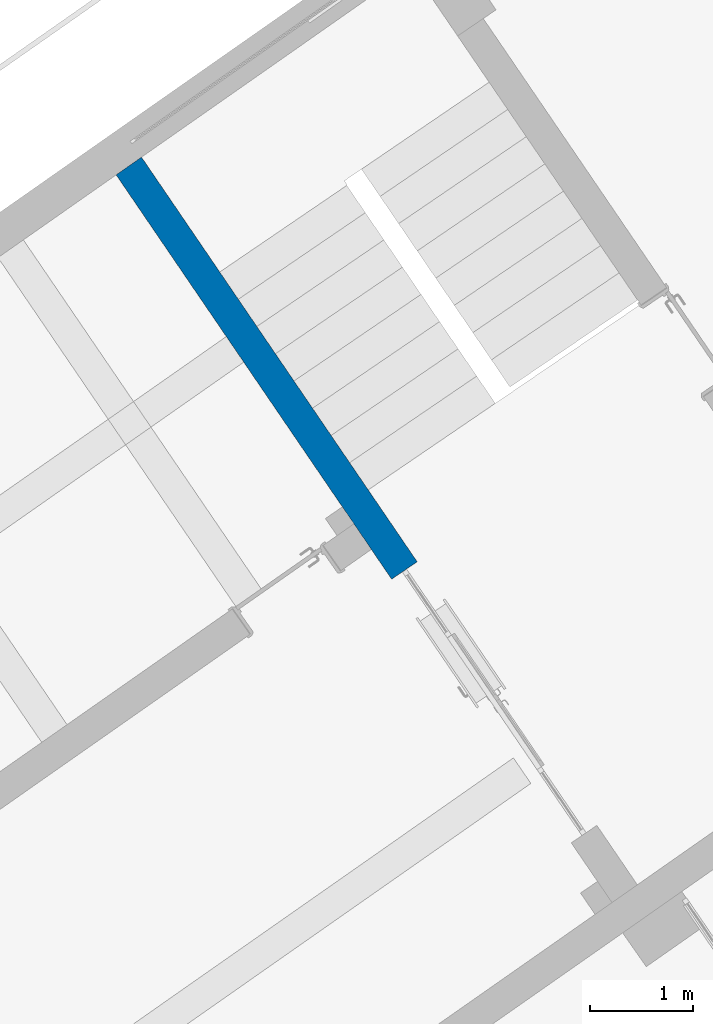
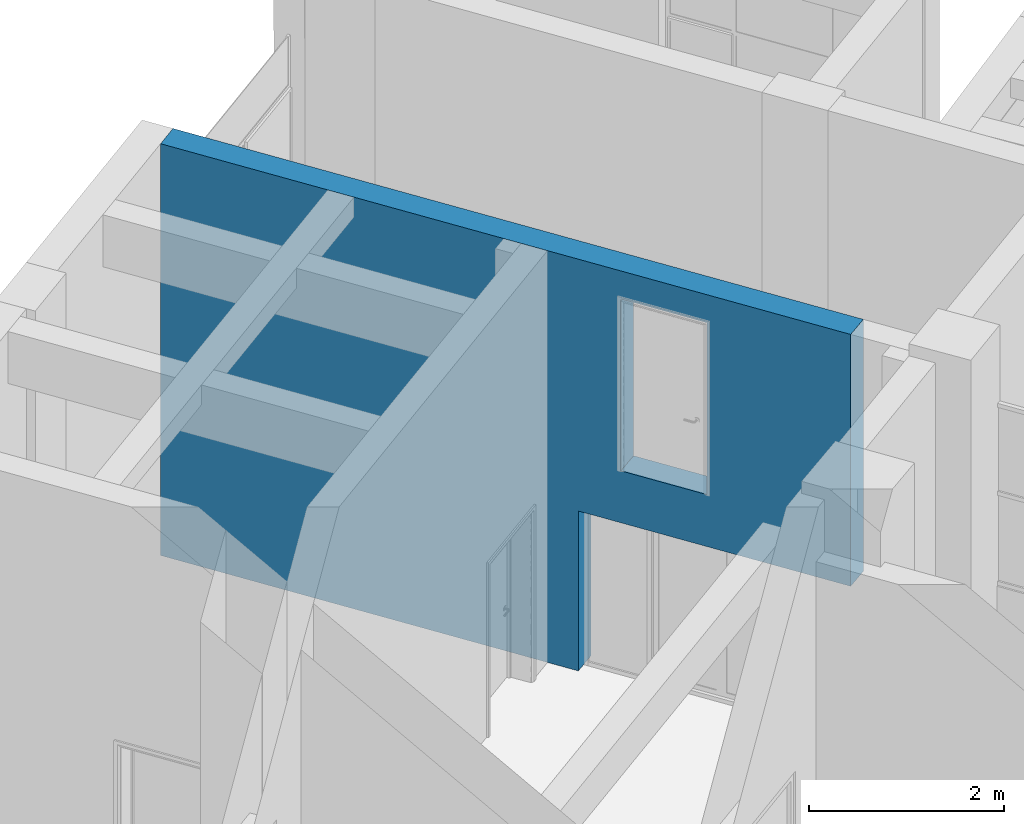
# One storey, part 111 of 157: 1 wall, 1 opening.
"""IFC2X3 building model written with IfcOpenShell, lengths in millimetres."""

import ifcopenshell
import ifcopenshell.guid

model = None  # the IFC model being written
_history = None  # IfcOwnerHistory: only IFC2X3 demands one
_inside = {}  # id of a spatial element -> (the spatial element, [elements in it])
_under = {}  # id of a project, library or spatial element -> (it, [spatial elements below it])
_declared = {}  # id of a project -> (the project, [libraries it declares])
_typed = {}  # id of a type object -> (the type object, [elements of that type])
_made_of = {}  # id of a material, layer set ... -> (it, [elements and type objects made of it])


def new_model(schema):
    """Start an empty IFC model of exactly this schema.

    Asked for "IFC4X3", IfcOpenShell would pick the latest addendum, in which some entities
    have other attributes; the version numbers below select the first issue.
    IFC2X3 requires an IfcOwnerHistory on every rooted entity: one is made here for all.
    """
    global model, _history
    if schema == "IFC4X3":
        model = ifcopenshell.file(schema_version=(4, 3, 0, 0))
    else:
        model = ifcopenshell.file(schema=schema)
    _inside.clear()
    _under.clear()
    _declared.clear()
    _typed.clear()
    _made_of.clear()
    _history = None
    if model.schema == "IFC2X3":
        org = make("IfcOrganization", Name="unknown")
        user = make(
            "IfcPersonAndOrganization",
            ThePerson=make("IfcPerson", FamilyName="unknown"),
            TheOrganization=org,
        )
        app = make(
            "IfcApplication",
            ApplicationDeveloper=org,
            Version="unknown",
            ApplicationFullName="unknown",
            ApplicationIdentifier="unknown",
        )
        _history = make(
            "IfcOwnerHistory",
            OwningUser=user,
            OwningApplication=app,
            ChangeAction="ADDED",
            CreationDate=0,
        )
    return model


def make(cls, **values):
    """One entity of the class cls with the attributes given. An attribute that is None is left unset."""
    return model.create_entity(
        cls, **{name: value for name, value in values.items() if value is not None}
    )


def entity(cls, *values):
    """Any entity or typed value of the class cls, its attributes in the order of the schema. None: left unset."""
    e = model.create_entity(cls)
    for i, value in enumerate(values):
        if value is not None:
            e[i] = value
    return e


def rooted(cls, **values):
    """An entity with a GlobalId (a new one), such as an element, a storey or a relation."""
    return make(cls, GlobalId=ifcopenshell.guid.new(), OwnerHistory=_history, **values)


def si_unit(unit_type, name, prefix=None):
    """IfcSIUnit, for example si_unit("LENGTHUNIT", "METRE", prefix="MILLI")."""
    return make("IfcSIUnit", UnitType=unit_type, Prefix=prefix, Name=name)


def converted_unit(unit_type, name, factor, base, dimensions=None, offset=None):
    """IfcConversionBasedUnit, such as the inch: factor (a typed value) times the base unit."""
    return make(
        "IfcConversionBasedUnit"
        if offset is None
        else "IfcConversionBasedUnitWithOffset",
        ConversionOffset=offset,
        Dimensions=None
        if dimensions is None
        else entity("IfcDimensionalExponents", *dimensions),
        UnitType=unit_type,
        Name=name,
        ConversionFactor=make(
            "IfcMeasureWithUnit", ValueComponent=factor, UnitComponent=base
        ),
    )


def derived_unit(unit_type, elements):
    """IfcDerivedUnit: a product of units, each with its exponent."""
    return make(
        "IfcDerivedUnit",
        Elements=[
            make("IfcDerivedUnitElement", Unit=unit, Exponent=power)
            for unit, power in elements
        ],
        UnitType=unit_type,
    )


def assignment(units):
    """IfcUnitAssignment: the units of a project."""
    return None if units is None else make("IfcUnitAssignment", Units=units)


def point(xyz):
    """IfcCartesianPoint."""
    return None if xyz is None else make("IfcCartesianPoint", Coordinates=xyz)


def direction(xyz):
    """IfcDirection."""
    return None if xyz is None else make("IfcDirection", DirectionRatios=xyz)


def frame(location, z_axis=None, x_axis=None):
    """IfcAxis2Placement3D, a coordinate frame: its origin and axes. An axis left out is left unset."""
    return make(
        "IfcAxis2Placement3D",
        Location=point(location),
        Axis=direction(z_axis),
        RefDirection=direction(x_axis),
    )


def frame_2d(location, x_axis=None):
    """IfcAxis2Placement2D, a coordinate frame in the plane: its origin and x axis."""
    return make(
        "IfcAxis2Placement2D", Location=point(location), RefDirection=direction(x_axis)
    )


def origin():
    """The frame at (0, 0, 0) with its axes left unset."""
    return frame((0.0, 0.0, 0.0))


def place(relative_to, where):
    """IfcLocalPlacement: puts the frame where relative to a parent placement (None: the world)."""
    return make(
        "IfcLocalPlacement", PlacementRelTo=relative_to, RelativePlacement=where
    )


def context(
    kind, dimensions, precision=None, world=None, true_north=None, identifier=None
):
    """IfcGeometricRepresentationContext, for example the 3D "Model" context."""
    return make(
        "IfcGeometricRepresentationContext",
        ContextIdentifier=identifier,
        ContextType=kind,
        CoordinateSpaceDimension=dimensions,
        Precision=precision,
        WorldCoordinateSystem=world,
        TrueNorth=true_north,
    )


def subcontext(parent, identifier, kind, view, scale=None):
    """IfcGeometricRepresentationSubContext, for example "Body" below "Model"."""
    return make(
        "IfcGeometricRepresentationSubContext",
        ContextIdentifier=identifier,
        ContextType=kind,
        ParentContext=parent,
        TargetScale=scale,
        TargetView=view,
    )


def project(units=None, contexts=None):
    """IfcProject with its units and contexts."""
    return rooted(
        "IfcProject",
        Name="project",
        RepresentationContexts=contexts,
        UnitsInContext=assignment(units),
    )


def spatial(cls, under=None, at=None, **own):
    """A site, building, storey or space (cls), placed at a placement, below another one or the project."""
    s = rooted(cls, ObjectPlacement=at, **own)
    if under is not None:
        _under.setdefault(under.id(), (under, []))[1].append(s)
    return s


def profile(cls, at=None, kind="AREA", **sizes):
    """A parametric profile (cls). Its sizes go by their IFC names, for example OverallWidth=200.0."""
    return make(cls, ProfileType=kind, Position=at, **sizes)


def rectangle(**sizes):
    """IfcRectangleProfileDef."""
    return profile("IfcRectangleProfileDef", **sizes)


def extrude(swept, where, along, depth):
    """IfcExtrudedAreaSolid: the profile swept, set in the frame where, extruded along a direction by depth."""
    return make(
        "IfcExtrudedAreaSolid",
        SweptArea=swept,
        Position=where,
        ExtrudedDirection=direction(along),
        Depth=depth,
    )


def faces_of(points, faces, orient=None, outer=None):
    """IfcFace entities. A face is a list of loops; a loop is a list of indices into points, from 0.

    orient and outer hold one flag for each loop. By default every Orientation is true, the
    first loop of a face is its IfcFaceOuterBound and the others are IfcFaceBound.
    """
    made = []
    for i, loops in enumerate(faces):
        bounds = []
        for j, loop in enumerate(loops):
            is_outer = j == 0 if outer is None else outer[i][j]
            bounds.append(
                make(
                    "IfcFaceOuterBound" if is_outer else "IfcFaceBound",
                    Bound=make("IfcPolyLoop", Polygon=[points[k] for k in loop]),
                    Orientation=True if orient is None else orient[i][j],
                )
            )
        made.append(make("IfcFace", Bounds=bounds))
    return made


def faceted_brep(points, faces, orient=None, outer=None, voids=None):
    """IfcFacetedBrep: a solid bounded by flat faces; with voids (closed shells), ...WithVoids."""
    shared = [point(p) for p in points]
    hull = make("IfcClosedShell", CfsFaces=faces_of(shared, faces, orient, outer))
    if voids is None:
        return make("IfcFacetedBrep", Outer=hull)
    return make(
        "IfcFacetedBrepWithVoids",
        Outer=hull,
        Voids=[
            make(cls, CfsFaces=faces_of(shared, fs, o, b)) for cls, fs, o, b in voids
        ],
    )


def shape(context_of_items, identifier, shape_type, items):
    """IfcShapeRepresentation: the items that make up one representation, for example the "Body"."""
    return make(
        "IfcShapeRepresentation",
        ContextOfItems=context_of_items,
        RepresentationIdentifier=identifier,
        RepresentationType=shape_type,
        Items=items,
    )


def material(Name=None, Category=None):
    """IfcMaterial."""
    return make("IfcMaterial", Name=Name, Category=Category)


def layer(
    of_material, thickness, ventilated=None, Name=None, Category=None, Priority=None
):
    """IfcMaterialLayer: one layer of a wall or slab, of a material (None: an air gap)."""
    return make(
        "IfcMaterialLayer",
        Material=of_material,
        LayerThickness=thickness,
        IsVentilated=ventilated,
        Name=Name,
        Category=Category,
        Priority=Priority,
    )


def layer_set(layers, Name=None):
    """IfcMaterialLayerSet."""
    return make("IfcMaterialLayerSet", MaterialLayers=layers, LayerSetName=Name)


def made_of(thing, what):
    """Note that an element or type object is made of a material, layer set ...; save() writes the relation."""
    if what is not None:
        _made_of.setdefault(what.id(), (what, []))[1].append(thing)
    return thing


def type_object(cls, material=None, **own):
    """A type object (cls), such as IfcWallType, which elements share."""
    return made_of(rooted(cls, **own), material)


def element(
    cls,
    number,
    at=None,
    inside=None,
    cuts=None,
    type_object=None,
    material=None,
    context=None,
    identifier="Body",
    shape_type=None,
    held_by="IfcProductDefinitionShape",
    body=None,
    shapes=None,
    **own,
):
    """One element of the class cls, such as IfcWall. Its Tag is "e" and its number.

    at: its placement. inside: the storey or other place that contains it. cuts: it is an
    opening in that element (IfcRelVoidsElement). A single representation is given by context,
    identifier, shape_type and body (its items); several are given by shapes. held_by: the class
    of the entity that holds the representations. save() writes the other relations.
    """
    e = rooted(cls, Tag="e%d" % number, ObjectPlacement=at, **own)
    if body is not None:
        shapes = [shape(context, identifier, shape_type, body)]
    if shapes is not None:
        e.Representation = make(held_by, Representations=shapes)
    if inside is not None:
        _inside.setdefault(inside.id(), (inside, []))[1].append(e)
    if cuts is not None:
        rooted(
            "IfcRelVoidsElement", RelatingBuildingElement=cuts, RelatedOpeningElement=e
        )
    if type_object is not None:
        _typed.setdefault(type_object.id(), (type_object, []))[1].append(e)
    return made_of(e, material)


def aggregate(whole, parts):
    """IfcRelAggregates: a whole, such as a stair, and the parts it consists of."""
    return rooted("IfcRelAggregates", RelatingObject=whole, RelatedObjects=parts)


def save(model, path):
    """Write the relations noted so far, then the file.

    IfcRelAggregates (storeys below a building ...), IfcRelContainedInSpatialStructure (elements
    in a storey), IfcRelDefinesByType, IfcRelAssociatesMaterial and IfcRelDeclares: one each for
    every whole, place, type object, material and project.
    """
    for whole, parts in _under.values():
        aggregate(whole, parts)
    for where, things in _inside.values():
        rooted(
            "IfcRelContainedInSpatialStructure",
            RelatedElements=things,
            RelatingStructure=where,
        )
    for kind, things in _typed.values():
        rooted("IfcRelDefinesByType", RelatedObjects=things, RelatingType=kind)
    for what, things in _made_of.values():
        rooted("IfcRelAssociatesMaterial", RelatedObjects=things, RelatingMaterial=what)
    for by, libraries in _declared.values():
        rooted("IfcRelDeclares", RelatingContext=by, RelatedDefinitions=libraries)
    model.write(path)


model = new_model("IFC2X3")

# Units and contexts
model_context = context("Model", 3, precision=0.01, world=origin(), true_north=direction((6.123031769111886e-17, 1.0)))
body_context = subcontext(model_context, "Body", "Model", "MODEL_VIEW")
ifc_project = project(units=[si_unit("LENGTHUNIT", "METRE", prefix="MILLI"), si_unit("AREAUNIT", "SQUARE_METRE"), si_unit("VOLUMEUNIT", "CUBIC_METRE"), converted_unit("PLANEANGLEUNIT", "DEGREE", entity("IfcRatioMeasure", 0.017453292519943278), si_unit("PLANEANGLEUNIT", "RADIAN"), dimensions=[0, 0, 0, 0, 0, 0, 0]), si_unit("MASSUNIT", "GRAM", prefix="KILO"), derived_unit("MASSDENSITYUNIT", [(si_unit("MASSUNIT", "GRAM", prefix="KILO"), 1), (si_unit("LENGTHUNIT", "METRE"), -3)]), derived_unit("MOMENTOFINERTIAUNIT", [(si_unit("LENGTHUNIT", "METRE"), 4)]), si_unit("TIMEUNIT", "SECOND"), si_unit("FREQUENCYUNIT", "HERTZ"), si_unit("THERMODYNAMICTEMPERATUREUNIT", "DEGREE_CELSIUS"), derived_unit("THERMALTRANSMITTANCEUNIT", [(si_unit("MASSUNIT", "GRAM", prefix="KILO"), 1), (si_unit("THERMODYNAMICTEMPERATUREUNIT", "KELVIN"), -1), (si_unit("TIMEUNIT", "SECOND"), -3)]), derived_unit("THERMALCONDUCTANCEUNIT", [(si_unit("MASSUNIT", "GRAM", prefix="KILO"), 1), (si_unit("LENGTHUNIT", "METRE"), 1), (si_unit("THERMODYNAMICTEMPERATUREUNIT", "KELVIN"), -1), (si_unit("TIMEUNIT", "SECOND"), -3)]), derived_unit("VOLUMETRICFLOWRATEUNIT", [(si_unit("LENGTHUNIT", "METRE"), 3), (si_unit("TIMEUNIT", "SECOND"), -1)]), derived_unit("MASSFLOWRATEUNIT", [(si_unit("MASSUNIT", "GRAM", prefix="KILO"), 1), (si_unit("TIMEUNIT", "SECOND"), -1)]), derived_unit("ROTATIONALFREQUENCYUNIT", [(si_unit("TIMEUNIT", "SECOND"), -1)]), si_unit("ELECTRICCURRENTUNIT", "AMPERE"), si_unit("ELECTRICVOLTAGEUNIT", "VOLT"), si_unit("POWERUNIT", "WATT"), converted_unit("FORCEUNIT", "KIP", entity("IfcRatioMeasure", 2.088543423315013e-05), si_unit("FORCEUNIT", "NEWTON"), dimensions=[1, 1, -2, 0, 0, 0, 0]), si_unit("ILLUMINANCEUNIT", "LUX"), si_unit("LUMINOUSFLUXUNIT", "LUMEN"), si_unit("LUMINOUSINTENSITYUNIT", "CANDELA"), derived_unit("USERDEFINED", [(si_unit("MASSUNIT", "GRAM", prefix="KILO"), -1), (si_unit("LENGTHUNIT", "METRE"), -2), (si_unit("TIMEUNIT", "SECOND"), 3), (si_unit("LUMINOUSFLUXUNIT", "LUMEN"), 1)]), derived_unit("USERDEFINED", [(si_unit("MASSUNIT", "GRAM", prefix="KILO"), 1), (si_unit("LENGTHUNIT", "METRE"), 3), (si_unit("TIMEUNIT", "SECOND"), -3), (si_unit("ELECTRICCURRENTUNIT", "AMPERE"), -2)]), derived_unit("USERDEFINED", [(si_unit("LENGTHUNIT", "METRE"), 2), (si_unit("TIMEUNIT", "SECOND"), -2)]), derived_unit("SOUNDPOWERUNIT", [(si_unit("MASSUNIT", "GRAM", prefix="KILO"), 1), (si_unit("LENGTHUNIT", "METRE"), 2), (si_unit("TIMEUNIT", "SECOND"), -3)]), derived_unit("SOUNDPRESSUREUNIT", [(si_unit("MASSUNIT", "GRAM", prefix="KILO"), 1), (si_unit("LENGTHUNIT", "METRE"), -1), (si_unit("TIMEUNIT", "SECOND"), -2)]), derived_unit("LINEARVELOCITYUNIT", [(si_unit("LENGTHUNIT", "METRE"), 1), (si_unit("TIMEUNIT", "SECOND"), -1)]), si_unit("PRESSUREUNIT", "PASCAL"), derived_unit("USERDEFINED", [(si_unit("LENGTHUNIT", "METRE"), -2), (si_unit("MASSUNIT", "GRAM", prefix="KILO"), 1), (si_unit("TIMEUNIT", "SECOND"), -2)]), derived_unit("LINEARFORCEUNIT", [(si_unit("MASSUNIT", "GRAM", prefix="KILO"), 1), (si_unit("LENGTHUNIT", "METRE"), 1), (si_unit("TIMEUNIT", "SECOND"), -2), (si_unit("LENGTHUNIT", "METRE"), -1)]), derived_unit("PLANARFORCEUNIT", [(si_unit("MASSUNIT", "GRAM", prefix="KILO"), 1), (si_unit("LENGTHUNIT", "METRE"), 1), (si_unit("TIMEUNIT", "SECOND"), -2), (si_unit("LENGTHUNIT", "METRE"), -2)]), derived_unit("SPECIFICHEATCAPACITYUNIT", [(si_unit("LENGTHUNIT", "METRE"), 2), (si_unit("TIMEUNIT", "SECOND"), -2), (si_unit("THERMODYNAMICTEMPERATUREUNIT", "KELVIN"), -1)]), derived_unit("VAPORPERMEABILITYUNIT", [(si_unit("TIMEUNIT", "SECOND"), 1), (si_unit("LENGTHUNIT", "METRE"), -1)]), derived_unit("DYNAMICVISCOSITYUNIT", [(si_unit("MASSUNIT", "GRAM", prefix="KILO"), 1), (si_unit("LENGTHUNIT", "METRE"), -1), (si_unit("TIMEUNIT", "SECOND"), -1)]), derived_unit("THERMALEXPANSIONCOEFFICIENTUNIT", [(si_unit("THERMODYNAMICTEMPERATUREUNIT", "KELVIN"), -1)])], contexts=[model_context])

# Site, building, storey
site_placement = place(None, frame((0.0, 0.0, 0.0), z_axis=(0.0, 0.0, 1.0), x_axis=(0.8191520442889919, 0.5735764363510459, 0.0)))
site = spatial("IfcSite", under=ifc_project, at=site_placement, Name="Default", CompositionType="ELEMENT")
building_placement = place(site_placement, origin())
building = spatial("IfcBuilding", under=site, at=building_placement, CompositionType="ELEMENT")
storey_placement = place(building_placement, origin())
storey = spatial("IfcBuildingStorey", under=building, at=storey_placement, Name="1.EG +0.00", CompositionType="ELEMENT", Elevation=-4.331468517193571e-12)

# Wall, opening
ifc_material = material(Name="Analytical Wall Surface_CJC")
ifc_layer = layer(ifc_material, 300.0)
ifc_layer_set = layer_set([ifc_layer], Name="Basic Wall:Wand_Innen_30")
wall_type = type_object("IfcWallType", Name="Basic Wall:Wand_Innen_30", PredefinedType="STANDARD", material=ifc_layer_set)
wall_placement = place(storey_placement, frame((-210321.90995333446, 164821.35891435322, 0.0), z_axis=(0.0, 0.0, 1.0), x_axis=(0.012729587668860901, 0.999918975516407, 0.0)))
wall = element("IfcWall", 1, at=wall_placement, inside=storey, type_object=wall_type, Name="Basic Wall:Wand_Innen_30", ObjectType="Basic Wall:Wand_Innen_30", context=body_context, shape_type="Brep", body=[
    faceted_brep([(3098.03368539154, -150.0, 0.0), (7852.545686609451, -150.0, 0.0), (7852.545686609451, -150.0, 4250.0), (7852.545686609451, -150.0, 5150.0), (0.0, -150.0, 5150.0), (0.0, -150.0, 2000.0), (3098.03368539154, -150.0, 2000.0), (2613.3699642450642, -150.0, 4800.0), (2613.3699642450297, -150.0, 2650.0), (1633.3699642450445, -150.0, 2650.0), (1633.3699642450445, -150.0, 4800.0), (7848.726500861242, 150.0, 0.0), (3748.3942735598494, 150.0, 0.0), (3448.3699642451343, 150.0, 0.0), (3098.03368539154, 150.0, 0.0), (3098.03368539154, 150.0, 2000.0), (998.1714381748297, 150.0, 2000.0), (698.1471288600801, 150.0, 2000.0), (0.0, 150.0, 2000.0), (0.0, 150.0, 5150.0), (3448.3699642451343, 150.0, 5150.0), (3748.3942735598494, 150.0, 5150.0), (5648.548232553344, 150.0, 5150.0), (5948.572541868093, 150.0, 5150.0), (7848.726500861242, 150.0, 5150.0), (2613.3699642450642, 150.0, 2650.0), (2613.3699642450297, 150.0, 4800.0), (1633.3699642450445, 150.0, 4800.0), (1633.36996424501, 150.0, 2650.0)], [[[0, 1, 2, 3, 4, 5, 6], [7, 8, 9, 10]], [[11, 12, 13, 14, 15, 16, 17, 18, 19, 20, 21, 22, 23, 24], [25, 26, 27, 28]], [[1, 0, 14, 13, 12, 11]], [[4, 3, 24, 23, 22, 21, 20, 19]], [[5, 4, 19, 18]], [[6, 5, 18, 17, 16, 15]], [[0, 6, 15, 14]], [[25, 8, 7, 26]], [[26, 7, 10, 27]], [[27, 10, 9, 28]], [[8, 25, 28, 9]], [[1, 11, 24, 3, 2]]]),
])
opening_placement = place(wall_placement, frame((1633.3699642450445, -150.0, 2650.0)))
element("IfcOpeningElement", 2, at=opening_placement, cuts=wall, Name="Doors_IntSgl:90x210:1", ObjectType="Opening", context=body_context, shape_type="SweptSolid", body=[
    extrude(rectangle(XDim=2150.000000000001, YDim=979.9999999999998, at=frame_2d((1075.0000000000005, 489.9999999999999), x_axis=(1.0, 0.0))), frame((0.0, 0.0, 0.0), z_axis=(0.0, 1.0, 0.0), x_axis=(0.0, 0.0, 1.0)), (0.0, 0.0, 1.0), 300.0),
])

save(model, "model.ifc")
